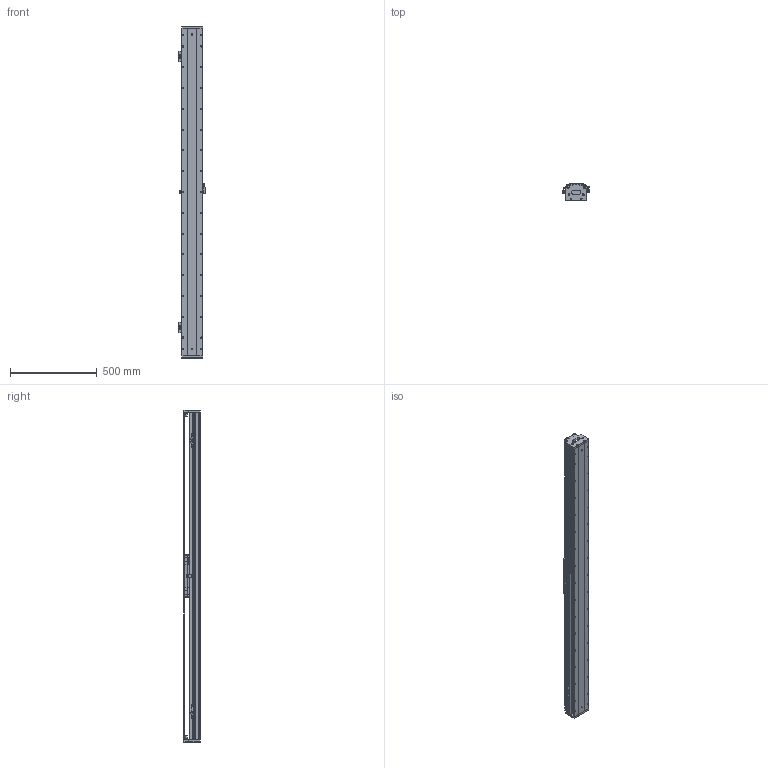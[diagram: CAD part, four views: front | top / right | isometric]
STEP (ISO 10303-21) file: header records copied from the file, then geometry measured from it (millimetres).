
FILE_DESCRIPTION (( 'STEP AP203' ), '1' );
FILE_NAME ('DKW119-C3-W060(T1560-L005-0.2).STEP', '2021-09-02T01:31:44', ( '微软用户' ), ( '微软中国' ), 'SwSTEP 2.0', 'SolidWorks 2018', '' );
FILE_SCHEMA (( 'CONFIG_CONTROL_DESIGN' ));
Length unit declared in the file: millimetre
Products named in the file (23): DKW-SG-GYP-H-00 嫖萇覜茼え; 砎蝶猾沭; MSB15-DG-U; RUS嫖掑喜; 12160-0000-003-00 DKW120詩湍嶺輸; DKW119-RU-DTJ-00 RU2黍杅芛盓殤; Ru2; 12160-0000-004-00  DKW120詩湍揤輸; 萇儂堤盄 ^DKW119-C3-W060(T1560-L005-0.2); RUS嫖掑郪璃; DKW119 单轴模组-拉钢带组件; CKMA01-W060-TRLxxx; CKM03-W060_00; pm-y65; DKW-HXJ-JY-00 遣喳砎蝶; DKW119-C3-W060(T1560-L005-0.2); 10980-0001-003-00 嫖萇羲壽嘐隅釱; 11062-0001-004-00 DKW119傷啣; 嫖萇羲壽蚾饜极; 06652-0001-004-00 DKW120嶺輸菜輸; 嫖萇羲壽蚾饜极A; 12018-0001-002-00 詩湍; 12018-0001-001-00 菁釱
Assembly tree (36 placements, depth 3):
  DKW119-C3-W060(T1560-L005-0.2)
    12018-0001-001-00 菁釱
    MSB15-DG-U  x2
    DKW119-RU-DTJ-00 RU2黍杅芛盓殤
    萇儂堤盄 ^DKW119-C3-W060(T1560-L005-0.2)
    CKMA01-W060-TRLxxx
    DKW119 单轴模组-拉钢带组件
      DKW-HXJ-JY-00 遣喳砎蝶  x4
      11062-0001-004-00 DKW119傷啣  x2
      06652-0001-004-00 DKW120嶺輸菜輸  x4
      12018-0001-002-00 詩湍
      砎蝶猾沭  x2
      12160-0000-003-00 DKW120詩湍嶺輸  x2
      12160-0000-004-00  DKW120詩湍揤輸  x2
    嫖萇羲壽蚾饜极
      pm-y65
      10980-0001-003-00 嫖萇羲壽嘐隅釱
    嫖萇羲壽蚾饜极A
      pm-y65  x2
      10980-0001-003-00 嫖萇羲壽嘐隅釱
    DKW-SG-GYP-H-00 嫖萇覜茼え
    RUS嫖掑郪璃
      RUS嫖掑喜
      Ru2
    CKM03-W060_00
Bounding box: 154.3 x 99 x 1916 mm (x, y, z)
Volume: 8500187.8 mm3; surface area: 2739164 mm2
Topology: 42 solids, 91 shells, 4318 faces, 11529 edges, 7354 vertices
Faces by surface type: plane 2146, cylinder 1507, cone 418, bspline 247
Entity records: 130369 total; most frequent: CARTESIAN_POINT 43580, ORIENTED_EDGE 17483, DIRECTION 16868, EDGE_CURVE 8782, VERTEX_POINT 5765, AXIS2_PLACEMENT_3D 5738, VECTOR 5392, LINE 5392
